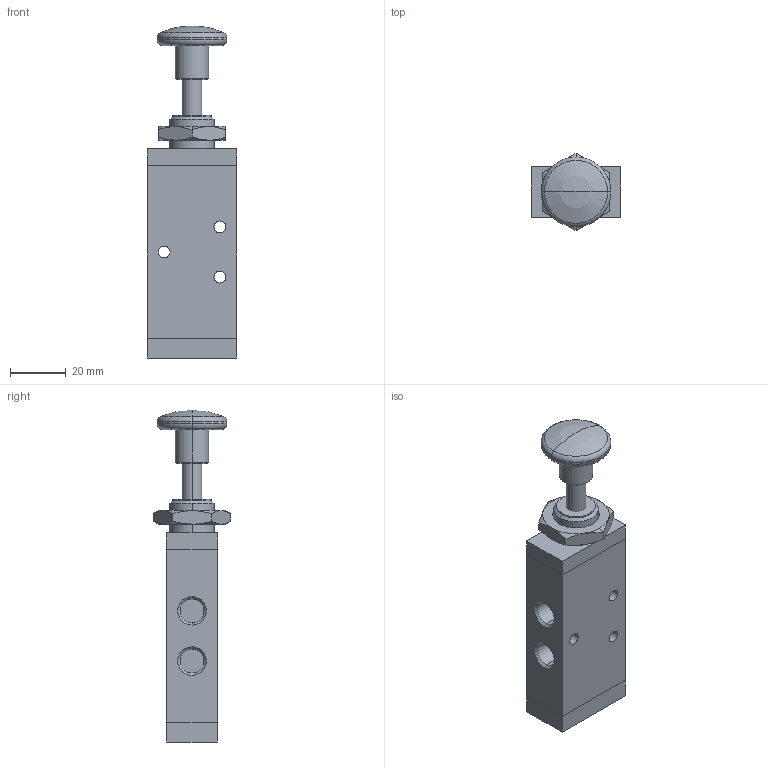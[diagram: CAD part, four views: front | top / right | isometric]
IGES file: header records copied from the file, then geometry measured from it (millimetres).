
Global section: file name: No Iges File Name specified; native system: AutoDesk Inventor R11.0; preprocessor: AutoDesk Inventor Iges Exporter R11.0; author: No Author specified; organization: No Organization specified; date: 20061219.114249; units: millimetre
Bounding box: 32 x 27.71 x 119 mm (x, y, z)
Volume: 48459.9 mm3; surface area: 14011.8 mm2
Topology: 2 solids, 2 shells, 88 faces, 192 edges, 117 vertices
Faces by surface type: bspline 31, plane 27, cylinder 10, revolution 8, cone 6, torus 4, sphere 2
